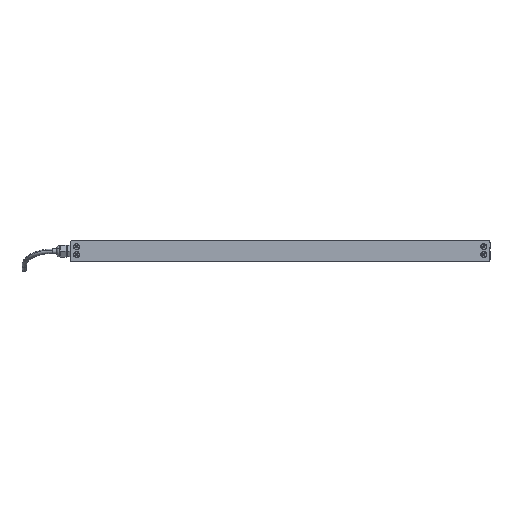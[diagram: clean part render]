
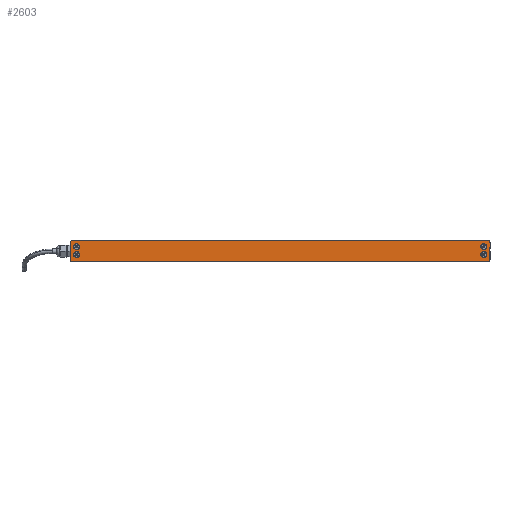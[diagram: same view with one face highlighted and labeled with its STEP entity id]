
A CAD part, left-side view. The second image highlights one B-rep face of the part: STEP entity #2603.
In plain terms, the highlighted planar face has unit normal (-1, 0, 0) as drawn and (0, 0, -1) by its records, which use the part's own axes.
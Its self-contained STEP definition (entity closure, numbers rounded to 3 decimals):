
#129 = FACE_BOUND ( 'NONE', #7787, .T. ) ;
#143 = EDGE_CURVE ( 'NONE', #7148, #14465, #4779, .T. ) ;
#213 = CIRCLE ( 'NONE', #11045, 5.6 ) ;
#265 = EDGE_CURVE ( 'NONE', #2427, #13928, #13880, .T. ) ;
#278 = ORIENTED_EDGE ( 'NONE', *, *, #4202, .F. ) ;
#399 = VERTEX_POINT ( 'NONE', #1812 ) ;
#512 = CIRCLE ( 'NONE', #3261, 5.6 ) ;
#549 = DIRECTION ( 'NONE',  ( -1., 0., 0. ) ) ;
#792 = DIRECTION ( 'NONE',  ( 1., 0., 0. ) ) ;
#1283 = VERTEX_POINT ( 'NONE', #14186 ) ;
#1287 = ORIENTED_EDGE ( 'NONE', *, *, #5201, .F. ) ;
#1458 = CARTESIAN_POINT ( 'NONE',  ( -389., 16., 0. ) ) ;
#1650 = EDGE_LOOP ( 'NONE', ( #9259, #12264, #6514, #4797, #4736, #1661, #15593, #1287 ) ) ;
#1657 = VERTEX_POINT ( 'NONE', #12466 ) ;
#1661 = ORIENTED_EDGE ( 'NONE', *, *, #4234, .F. ) ;
#1804 = CARTESIAN_POINT ( 'NONE',  ( -389., -16., 0. ) ) ;
#1812 = CARTESIAN_POINT ( 'NONE',  ( -393., 16., 0. ) ) ;
#1816 = EDGE_CURVE ( 'NONE', #7430, #1657, #3839, .T. ) ;
#1881 = EDGE_CURVE ( 'NONE', #11148, #15509, #9882, .T. ) ;
#1955 = LINE ( 'NONE', #4501, #3772 ) ;
#1998 = CIRCLE ( 'NONE', #8064, 5.6 ) ;
#2045 = EDGE_CURVE ( 'NONE', #15509, #4102, #12921, .T. ) ;
#2079 = VECTOR ( 'NONE', #6751, 1000. ) ;
#2183 = DIRECTION ( 'NONE',  ( -1., 0., 0. ) ) ;
#2383 = CIRCLE ( 'NONE', #5189, 4. ) ;
#2427 = VERTEX_POINT ( 'NONE', #7965 ) ;
#2552 = CARTESIAN_POINT ( 'NONE',  ( 381.3, 8.5, 0. ) ) ;
#2603 = ADVANCED_FACE ( 'NONE', ( #129, #10868, #13552, #8725, #14839 ), #2639, .T. ) ;
#2607 = CARTESIAN_POINT ( 'NONE',  ( -389., 20., 0. ) ) ;
#2639 = PLANE ( 'NONE',  #8778 ) ;
#2743 = ORIENTED_EDGE ( 'NONE', *, *, #1816, .F. ) ;
#2750 = CARTESIAN_POINT ( 'NONE',  ( 389., 16., 0. ) ) ;
#2778 = CARTESIAN_POINT ( 'NONE',  ( 389., 20., 0. ) ) ;
#2981 = CARTESIAN_POINT ( 'NONE',  ( -381.3, 8.5, 0. ) ) ;
#3043 = DIRECTION ( 'NONE',  ( 0., 0., 1. ) ) ;
#3072 = CARTESIAN_POINT ( 'NONE',  ( -381.3, -6.3, 0. ) ) ;
#3139 = DIRECTION ( 'NONE',  ( 0., 0., -1. ) ) ;
#3261 = AXIS2_PLACEMENT_3D ( 'NONE', #8200, #7010, #11025 ) ;
#3324 = AXIS2_PLACEMENT_3D ( 'NONE', #2552, #12115, #7462 ) ;
#3545 = ORIENTED_EDGE ( 'NONE', *, *, #7605, .F. ) ;
#3772 = VECTOR ( 'NONE', #12950, 1000. ) ;
#3839 = CIRCLE ( 'NONE', #14705, 5.6 ) ;
#4102 = VERTEX_POINT ( 'NONE', #5624 ) ;
#4202 = EDGE_CURVE ( 'NONE', #12619, #7415, #4273, .T. ) ;
#4234 = EDGE_CURVE ( 'NONE', #399, #11148, #10256, .T. ) ;
#4273 = CIRCLE ( 'NONE', #4766, 5.6 ) ;
#4290 = DIRECTION ( 'NONE',  ( -1., 0., 0. ) ) ;
#4296 = AXIS2_PLACEMENT_3D ( 'NONE', #2750, #8839, #14708 ) ;
#4401 = CARTESIAN_POINT ( 'NONE',  ( 375.7, -6.3, 0. ) ) ;
#4426 = DIRECTION ( 'NONE',  ( 0., 0., -1. ) ) ;
#4501 = CARTESIAN_POINT ( 'NONE',  ( -389., 20., 0. ) ) ;
#4736 = ORIENTED_EDGE ( 'NONE', *, *, #1881, .F. ) ;
#4766 = AXIS2_PLACEMENT_3D ( 'NONE', #2981, #3139, #11201 ) ;
#4779 = CIRCLE ( 'NONE', #8539, 5.6 ) ;
#4797 = ORIENTED_EDGE ( 'NONE', *, *, #2045, .F. ) ;
#4839 = LINE ( 'NONE', #11997, #11577 ) ;
#5189 = AXIS2_PLACEMENT_3D ( 'NONE', #9224, #14059, #792 ) ;
#5201 = EDGE_CURVE ( 'NONE', #13928, #13478, #1955, .T. ) ;
#5225 = EDGE_CURVE ( 'NONE', #1283, #8154, #512, .T. ) ;
#5230 = CARTESIAN_POINT ( 'NONE',  ( 375.7, 8.5, 0. ) ) ;
#5474 = DIRECTION ( 'NONE',  ( 0., 0., -1. ) ) ;
#5624 = CARTESIAN_POINT ( 'NONE',  ( 389., -20., 0. ) ) ;
#5665 = CARTESIAN_POINT ( 'NONE',  ( -389., -20., 0. ) ) ;
#5763 = CARTESIAN_POINT ( 'NONE',  ( -381.3, 8.5, 0. ) ) ;
#5847 = DIRECTION ( 'NONE',  ( 0., 0., -1. ) ) ;
#6514 = ORIENTED_EDGE ( 'NONE', *, *, #15492, .F. ) ;
#6636 = AXIS2_PLACEMENT_3D ( 'NONE', #5763, #5847, #2183 ) ;
#6676 = DIRECTION ( 'NONE',  ( -1., 0., 0. ) ) ;
#6751 = DIRECTION ( 'NONE',  ( 1., 0., 0. ) ) ;
#6770 = DIRECTION ( 'NONE',  ( 0., 0., -1. ) ) ;
#6773 = ORIENTED_EDGE ( 'NONE', *, *, #9156, .F. ) ;
#6810 = EDGE_LOOP ( 'NONE', ( #6773, #7569 ) ) ;
#6973 = ORIENTED_EDGE ( 'NONE', *, *, #143, .F. ) ;
#7010 = DIRECTION ( 'NONE',  ( 0., 0., -1. ) ) ;
#7025 = CIRCLE ( 'NONE', #9783, 4. ) ;
#7148 = VERTEX_POINT ( 'NONE', #5230 ) ;
#7181 = EDGE_CURVE ( 'NONE', #7415, #12619, #11916, .T. ) ;
#7321 = DIRECTION ( 'NONE',  ( 0., 0., -1. ) ) ;
#7415 = VERTEX_POINT ( 'NONE', #10880 ) ;
#7430 = VERTEX_POINT ( 'NONE', #9687 ) ;
#7462 = DIRECTION ( 'NONE',  ( -1., 0., 0. ) ) ;
#7569 = ORIENTED_EDGE ( 'NONE', *, *, #5225, .F. ) ;
#7605 = EDGE_CURVE ( 'NONE', #14465, #7148, #8611, .T. ) ;
#7787 = EDGE_LOOP ( 'NONE', ( #6973, #3545 ) ) ;
#7839 = VERTEX_POINT ( 'NONE', #8716 ) ;
#7965 = CARTESIAN_POINT ( 'NONE',  ( 393., 16., 0. ) ) ;
#8064 = AXIS2_PLACEMENT_3D ( 'NONE', #3072, #4426, #10261 ) ;
#8154 = VERTEX_POINT ( 'NONE', #4401 ) ;
#8200 = CARTESIAN_POINT ( 'NONE',  ( 381.3, -6.3, 0. ) ) ;
#8478 = CARTESIAN_POINT ( 'NONE',  ( -389., -20., 0. ) ) ;
#8539 = AXIS2_PLACEMENT_3D ( 'NONE', #10280, #5474, #4290 ) ;
#8611 = CIRCLE ( 'NONE', #3324, 5.6 ) ;
#8613 = EDGE_CURVE ( 'NONE', #1657, #7430, #1998, .T. ) ;
#8716 = CARTESIAN_POINT ( 'NONE',  ( 393., -16., 0. ) ) ;
#8725 = FACE_BOUND ( 'NONE', #15503, .T. ) ;
#8778 = AXIS2_PLACEMENT_3D ( 'NONE', #12122, #7321, #14515 ) ;
#8839 = DIRECTION ( 'NONE',  ( 0., 0., 1. ) ) ;
#9059 = EDGE_CURVE ( 'NONE', #13478, #399, #7025, .T. ) ;
#9132 = DIRECTION ( 'NONE',  ( 0., 0., -1. ) ) ;
#9156 = EDGE_CURVE ( 'NONE', #8154, #1283, #213, .T. ) ;
#9224 = CARTESIAN_POINT ( 'NONE',  ( 389., -16., 0. ) ) ;
#9259 = ORIENTED_EDGE ( 'NONE', *, *, #265, .F. ) ;
#9625 = CARTESIAN_POINT ( 'NONE',  ( -386.9, 8.5, 0. ) ) ;
#9687 = CARTESIAN_POINT ( 'NONE',  ( -386.9, -6.3, 0. ) ) ;
#9693 = EDGE_LOOP ( 'NONE', ( #278, #11157 ) ) ;
#9783 = AXIS2_PLACEMENT_3D ( 'NONE', #1458, #14684, #11184 ) ;
#9882 = CIRCLE ( 'NONE', #10902, 4. ) ;
#10164 = CARTESIAN_POINT ( 'NONE',  ( 386.9, 8.5, 0. ) ) ;
#10254 = DIRECTION ( 'NONE',  ( -1., 0., 0. ) ) ;
#10256 = LINE ( 'NONE', #11442, #10316 ) ;
#10261 = DIRECTION ( 'NONE',  ( -1., 0., 0. ) ) ;
#10280 = CARTESIAN_POINT ( 'NONE',  ( 381.3, 8.5, 0. ) ) ;
#10316 = VECTOR ( 'NONE', #15175, 1000. ) ;
#10676 = DIRECTION ( 'NONE',  ( 0., 1., 0. ) ) ;
#10868 = FACE_BOUND ( 'NONE', #6810, .T. ) ;
#10880 = CARTESIAN_POINT ( 'NONE',  ( -375.7, 8.5, 0. ) ) ;
#10902 = AXIS2_PLACEMENT_3D ( 'NONE', #1804, #3043, #6676 ) ;
#11025 = DIRECTION ( 'NONE',  ( -1., 0., 0. ) ) ;
#11045 = AXIS2_PLACEMENT_3D ( 'NONE', #13971, #9132, #549 ) ;
#11148 = VERTEX_POINT ( 'NONE', #13290 ) ;
#11157 = ORIENTED_EDGE ( 'NONE', *, *, #7181, .F. ) ;
#11184 = DIRECTION ( 'NONE',  ( -1., 0., 0. ) ) ;
#11201 = DIRECTION ( 'NONE',  ( -1., 0., 0. ) ) ;
#11438 = CARTESIAN_POINT ( 'NONE',  ( -381.3, -6.3, 0. ) ) ;
#11442 = CARTESIAN_POINT ( 'NONE',  ( -393., -16., 0. ) ) ;
#11466 = EDGE_CURVE ( 'NONE', #7839, #2427, #4839, .T. ) ;
#11577 = VECTOR ( 'NONE', #10676, 1000. ) ;
#11916 = CIRCLE ( 'NONE', #6636, 5.6 ) ;
#11997 = CARTESIAN_POINT ( 'NONE',  ( 393., -16., 0. ) ) ;
#12115 = DIRECTION ( 'NONE',  ( 0., 0., -1. ) ) ;
#12122 = CARTESIAN_POINT ( 'NONE',  ( 389., 16., 0. ) ) ;
#12264 = ORIENTED_EDGE ( 'NONE', *, *, #11466, .F. ) ;
#12466 = CARTESIAN_POINT ( 'NONE',  ( -375.7, -6.3, 0. ) ) ;
#12619 = VERTEX_POINT ( 'NONE', #9625 ) ;
#12921 = LINE ( 'NONE', #5665, #2079 ) ;
#12950 = DIRECTION ( 'NONE',  ( -1., 0., 0. ) ) ;
#13290 = CARTESIAN_POINT ( 'NONE',  ( -393., -16., 0. ) ) ;
#13478 = VERTEX_POINT ( 'NONE', #2607 ) ;
#13552 = FACE_BOUND ( 'NONE', #9693, .T. ) ;
#13880 = CIRCLE ( 'NONE', #4296, 4. ) ;
#13928 = VERTEX_POINT ( 'NONE', #2778 ) ;
#13971 = CARTESIAN_POINT ( 'NONE',  ( 381.3, -6.3, 0. ) ) ;
#14059 = DIRECTION ( 'NONE',  ( 0., 0., 1. ) ) ;
#14186 = CARTESIAN_POINT ( 'NONE',  ( 386.9, -6.3, 0. ) ) ;
#14465 = VERTEX_POINT ( 'NONE', #10164 ) ;
#14515 = DIRECTION ( 'NONE',  ( -1., 0., 0. ) ) ;
#14614 = ORIENTED_EDGE ( 'NONE', *, *, #8613, .F. ) ;
#14684 = DIRECTION ( 'NONE',  ( 0., 0., 1. ) ) ;
#14705 = AXIS2_PLACEMENT_3D ( 'NONE', #11438, #6770, #10254 ) ;
#14708 = DIRECTION ( 'NONE',  ( -1., 0., 0. ) ) ;
#14839 = FACE_OUTER_BOUND ( 'NONE', #1650, .T. ) ;
#15175 = DIRECTION ( 'NONE',  ( 0., -1., 0. ) ) ;
#15492 = EDGE_CURVE ( 'NONE', #4102, #7839, #2383, .T. ) ;
#15503 = EDGE_LOOP ( 'NONE', ( #2743, #14614 ) ) ;
#15509 = VERTEX_POINT ( 'NONE', #8478 ) ;
#15593 = ORIENTED_EDGE ( 'NONE', *, *, #9059, .F. ) ;
